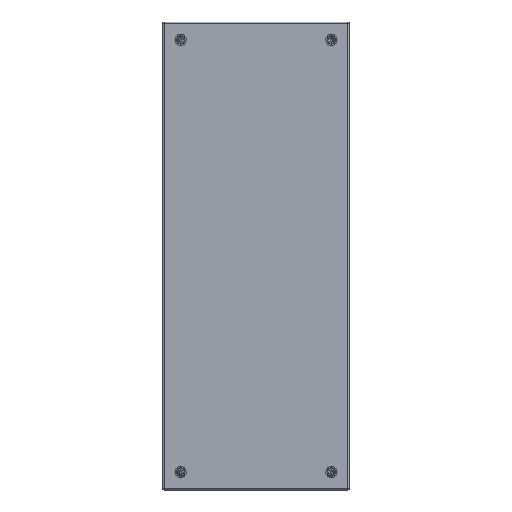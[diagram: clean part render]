
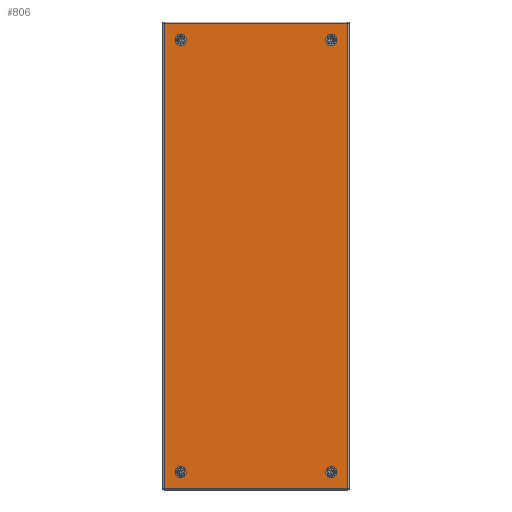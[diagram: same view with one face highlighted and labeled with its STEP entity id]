
A CAD part, top view. The second image highlights one B-rep face of the part: STEP entity #806.
In plain terms, the highlighted planar face has unit normal (0, 0, 1).
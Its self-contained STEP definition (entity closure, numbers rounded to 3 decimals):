
#806=ADVANCED_FACE('',(#3684,#3686,#3688,#3690,#3692),#3694,.T.);
#3684=FACE_BOUND('',#3685,.T.);
#3685=EDGE_LOOP('',(#12774,#12775,#12776,#12777));
#3686=FACE_BOUND('',#3687,.T.);
#3687=EDGE_LOOP('',(#12778));
#3688=FACE_BOUND('',#3689,.T.);
#3689=EDGE_LOOP('',(#12779));
#3690=FACE_BOUND('',#3691,.T.);
#3691=EDGE_LOOP('',(#12780));
#3692=FACE_BOUND('',#3693,.T.);
#3693=EDGE_LOOP('',(#12781));
#3694=PLANE('',#3695);
#3695=AXIS2_PLACEMENT_3D('',#3696,#3697,#3698);
#3696=CARTESIAN_POINT('',(0.,0.,0.));
#3697=DIRECTION('',(0.,0.,1.));
#3698=DIRECTION('',(0.,1.,0.));
#12774=ORIENTED_EDGE('',*,*,#18064,.T.);
#12775=ORIENTED_EDGE('',*,*,#18008,.T.);
#12776=ORIENTED_EDGE('',*,*,#18065,.T.);
#12777=ORIENTED_EDGE('',*,*,#18024,.T.);
#12778=ORIENTED_EDGE('',*,*,#18066,.T.);
#12779=ORIENTED_EDGE('',*,*,#18067,.T.);
#12780=ORIENTED_EDGE('',*,*,#18068,.T.);
#12781=ORIENTED_EDGE('',*,*,#18069,.T.);
#18008=EDGE_CURVE('',#21491,#21489,#21492,.T.);
#18024=EDGE_CURVE('',#21515,#21513,#21516,.T.);
#18064=EDGE_CURVE('',#21513,#21491,#21578,.T.);
#18065=EDGE_CURVE('',#21489,#21515,#21579,.T.);
#18066=EDGE_CURVE('',#21580,#21580,#21581,.F.);
#18067=EDGE_CURVE('',#21582,#21582,#21583,.F.);
#18068=EDGE_CURVE('',#21584,#21584,#21585,.F.);
#18069=EDGE_CURVE('',#21586,#21586,#21587,.F.);
#21489=VERTEX_POINT('',#27893);
#21491=VERTEX_POINT('',#27898);
#21492=LINE('',#27899,#27900);
#21513=VERTEX_POINT('',#27957);
#21515=VERTEX_POINT('',#27962);
#21516=LINE('',#27963,#27964);
#21578=LINE('',#28129,#28130);
#21579=LINE('',#28132,#28133);
#21580=VERTEX_POINT('',#28135);
#21581=CIRCLE('',#28136,8.);
#21582=VERTEX_POINT('',#28140);
#21583=CIRCLE('',#28141,8.);
#21584=VERTEX_POINT('',#28145);
#21585=CIRCLE('',#28146,8.);
#21586=VERTEX_POINT('',#28150);
#21587=CIRCLE('',#28151,8.);
#27893=CARTESIAN_POINT('',(195.7,-495.7,0.));
#27898=CARTESIAN_POINT('',(-195.7,-495.7,0.));
#27899=CARTESIAN_POINT('',(-195.7,-495.7,0.));
#27900=VECTOR('',#27901,1.);
#27901=DIRECTION('',(1.,0.,0.));
#27957=CARTESIAN_POINT('',(-195.7,495.7,0.));
#27962=CARTESIAN_POINT('',(195.7,495.7,0.));
#27963=CARTESIAN_POINT('',(195.7,495.7,0.));
#27964=VECTOR('',#27965,1.);
#27965=DIRECTION('',(-1.,0.,0.));
#28129=CARTESIAN_POINT('',(-195.7,495.7,0.));
#28130=VECTOR('',#28131,1.);
#28131=DIRECTION('',(0.,-1.,0.));
#28132=CARTESIAN_POINT('',(195.7,-495.7,0.));
#28133=VECTOR('',#28134,1.);
#28134=DIRECTION('',(0.,1.,0.));
#28135=CARTESIAN_POINT('',(160.5,468.5,0.));
#28136=AXIS2_PLACEMENT_3D('',#28137,#28138,#28139);
#28137=CARTESIAN_POINT('',(160.5,460.5,0.));
#28138=DIRECTION('',(0.,0.,1.));
#28139=DIRECTION('',(0.,1.,0.));
#28140=CARTESIAN_POINT('',(160.5,-452.5,0.));
#28141=AXIS2_PLACEMENT_3D('',#28142,#28143,#28144);
#28142=CARTESIAN_POINT('',(160.5,-460.5,0.));
#28143=DIRECTION('',(0.,0.,1.));
#28144=DIRECTION('',(0.,1.,0.));
#28145=CARTESIAN_POINT('',(-160.5,468.5,0.));
#28146=AXIS2_PLACEMENT_3D('',#28147,#28148,#28149);
#28147=CARTESIAN_POINT('',(-160.5,460.5,0.));
#28148=DIRECTION('',(0.,0.,1.));
#28149=DIRECTION('',(0.,1.,0.));
#28150=CARTESIAN_POINT('',(-160.5,-452.5,0.));
#28151=AXIS2_PLACEMENT_3D('',#28152,#28153,#28154);
#28152=CARTESIAN_POINT('',(-160.5,-460.5,0.));
#28153=DIRECTION('',(0.,0.,1.));
#28154=DIRECTION('',(0.,1.,0.));
